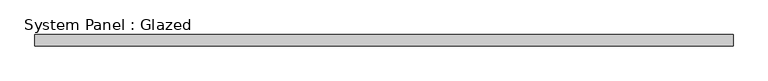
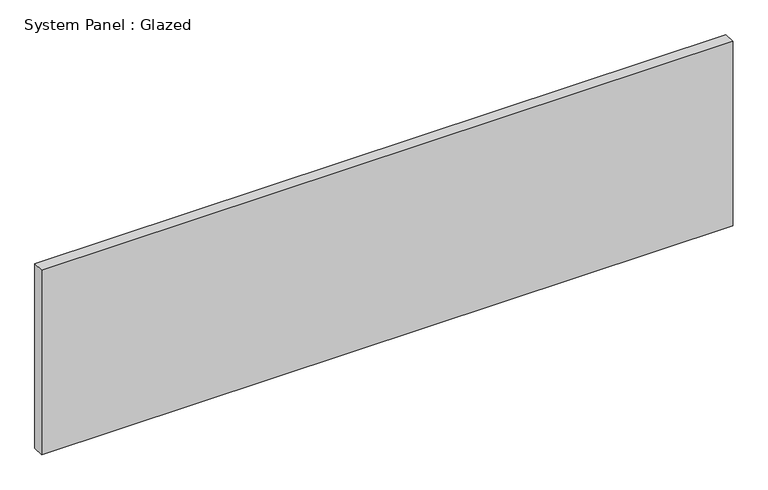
"""IFC4 building model written with IfcOpenShell, lengths in millimetres: plate geometry, System Panel : Glazed."""

from ifc_helpers import new_model, si_unit, origin, origin_with_axes, place, context, project, spatial, polyline, outline, extrude, source, transform, mapped, element, save


def system_panel_glazed_b8eb6f75(model_context):
    return source(origin(), model_context, "Body", "SweptSolid", [
        extrude(outline(polyline([(755.0, -12.5), (-755.0, -12.5), (-755.0, 12.5), (755.0, 12.5), (755.0, -12.5)])), origin_with_axes(), (0.0, 0.0, 1.0), 425.0),
    ])


if __name__ == "__main__":
    model = new_model("IFC4")
    model_context = context("Model", 3, world=origin())
    ifc_project = project(units=[si_unit("LENGTHUNIT", "METRE", prefix="MILLI")], contexts=[model_context])
    site = spatial("IfcSite", under=ifc_project)
    building = spatial("IfcBuilding", under=site)
    placement = place(None, origin())
    system_panel_glazed_shape = system_panel_glazed_b8eb6f75(model_context)
    element("IfcPlate", 1, ObjectType="System Panel : Glazed", at=placement, inside=building, context=model_context, shape_type="MappedRepresentation", body=[
        mapped(system_panel_glazed_shape, transform((0.0, 0.0, 0.0), x_axis=(1.0, 0.0, 0.0), y_axis=(0.0, 1.0, 0.0), z_axis=(0.0, 0.0, 1.0))),
    ])
    save(model, "model.ifc")
